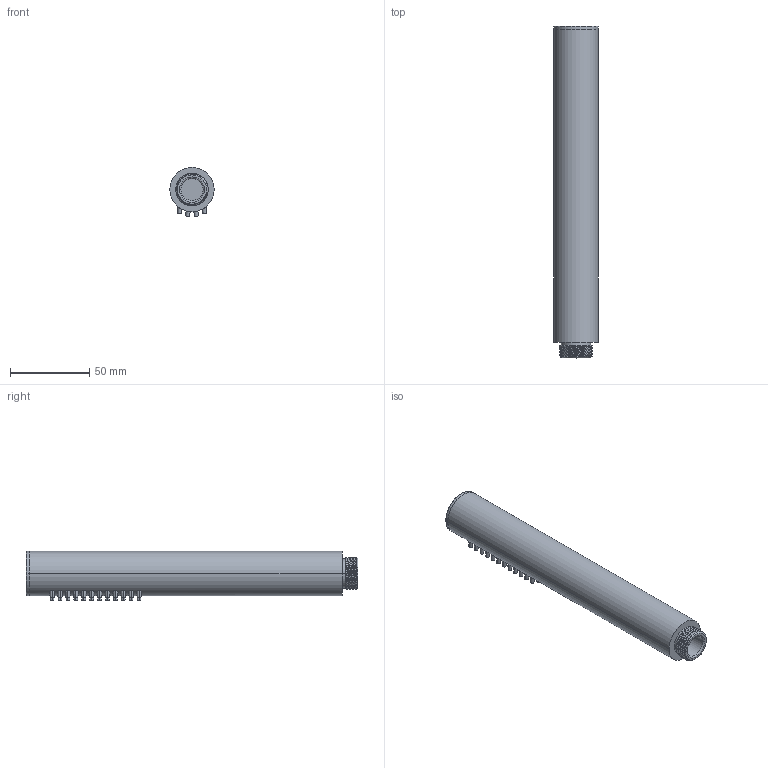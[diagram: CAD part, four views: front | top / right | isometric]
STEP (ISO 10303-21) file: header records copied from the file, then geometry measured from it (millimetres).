
FILE_DESCRIPTION((''),'2;1');
FILE_NAME('S025','2023-05-05T17:41:28',('Administrator'),(''),'CREO PARAMETRIC BY PTC INC, 2022414','CREO PARAMETRIC BY PTC INC, 2022414','');
FILE_SCHEMA(('CONFIG_CONTROL_DESIGN'));
Length unit declared in the file: millimetre
Products named in the file (1): S025
Bounding box: 28 x 210 x 31.1 mm (x, y, z)
Volume: 124125.4 mm3; surface area: 32001.3 mm2
Topology: 2 solids, 3 shells, 523 faces, 1152 edges, 734 vertices
Faces by surface type: cone 194, cylinder 162, bspline 102, plane 59, torus 6
Entity records: 27491 total; most frequent: CARTESIAN_POINT 16832, ORIENTED_EDGE 2304, DIRECTION 1813, EDGE_CURVE 1152, AXIS2_PLACEMENT_3D 749, VERTEX_POINT 734, EDGE_LOOP 718, FACE_OUTER_BOUND 523
